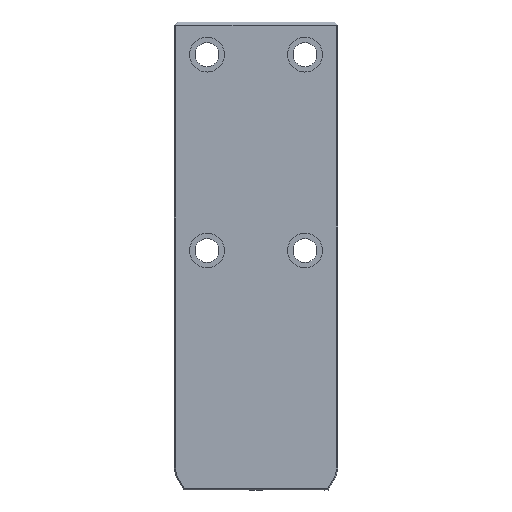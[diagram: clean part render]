
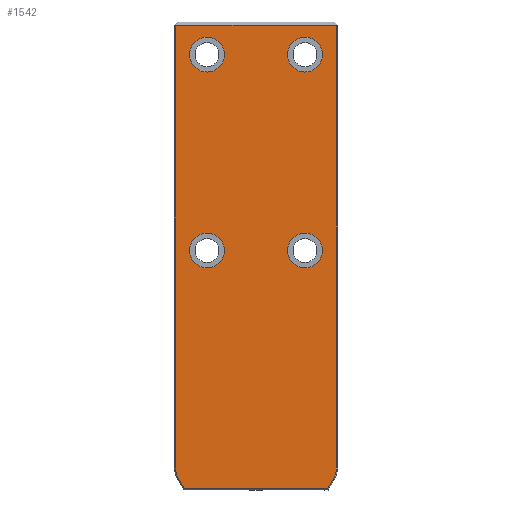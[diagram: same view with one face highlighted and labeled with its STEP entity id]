
A CAD part, front view. The second image highlights one B-rep face of the part: STEP entity #1542.
In plain terms, the highlighted planar face has unit normal (0, -1, 0).
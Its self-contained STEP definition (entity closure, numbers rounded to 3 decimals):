
#109=VERTEX_POINT(' ',#110);
#110=CARTESIAN_POINT('',(45.,-50.,-226.));
#111=VERTEX_POINT(' ',#112);
#112=CARTESIAN_POINT('',(45.,-50.,-194.));
#117=VERTEX_POINT(' ',#118);
#118=CARTESIAN_POINT('',(-45.,-50.,-46.));
#119=VERTEX_POINT(' ',#120);
#120=CARTESIAN_POINT('',(-45.,-50.,-14.));
#137=VERTEX_POINT(' ',#138);
#138=CARTESIAN_POINT('',(-45.,-50.,-226.));
#139=VERTEX_POINT(' ',#140);
#140=CARTESIAN_POINT('',(-45.,-50.,-194.));
#145=VERTEX_POINT(' ',#146);
#146=CARTESIAN_POINT('',(45.,-50.,-46.));
#147=VERTEX_POINT(' ',#148);
#148=CARTESIAN_POINT('',(45.,-50.,-14.));
#153=VERTEX_POINT(' ',#154);
#154=CARTESIAN_POINT('',(65.762,-50.,-429.));
#159=VERTEX_POINT(' ',#160);
#160=CARTESIAN_POINT('',(71.454,-50.,-419.141));
#163=VERTEX_POINT(' ',#164);
#164=CARTESIAN_POINT('',(74.,-50.,-409.641));
#167=VERTEX_POINT(' ',#168);
#168=CARTESIAN_POINT('',(74.,-50.,-240.));
#171=VERTEX_POINT(' ',#172);
#172=CARTESIAN_POINT('',(74.,-50.,-3.));
#177=VERTEX_POINT(' ',#178);
#178=CARTESIAN_POINT('',(-73.775,-50.,-3.));
#181=VERTEX_POINT(' ',#182);
#182=CARTESIAN_POINT('',(-74.,-50.,-3.112));
#187=VERTEX_POINT(' ',#188);
#188=CARTESIAN_POINT('',(-65.762,-50.,-429.));
#191=VERTEX_POINT(' ',#192);
#192=CARTESIAN_POINT('',(-74.,-50.,-240.));
#193=VERTEX_POINT(' ',#194);
#194=CARTESIAN_POINT('',(-74.,-50.,-409.641));
#195=VERTEX_POINT(' ',#196);
#196=CARTESIAN_POINT('',(-71.454,-50.,-419.141));
#363=CIRCLE('',#364,16.);
#364=AXIS2_PLACEMENT_3D('',#365,#366,#367);
#365=CARTESIAN_POINT('',(45.,-50.,-210.));
#366=DIRECTION('',(0.,1.,0.));
#367=DIRECTION('',(-1.,0.,0.));
#368=EDGE_CURVE(' ',#109,#111,#363,.F.);
#379=CIRCLE('',#380,16.);
#380=AXIS2_PLACEMENT_3D('',#381,#382,#383);
#381=CARTESIAN_POINT('',(45.,-50.,-210.));
#382=DIRECTION('',(0.,1.,0.));
#383=DIRECTION('',(1.,0.,0.));
#384=EDGE_CURVE(' ',#111,#109,#379,.F.);
#397=CIRCLE('',#398,16.);
#398=AXIS2_PLACEMENT_3D('',#399,#400,#401);
#399=CARTESIAN_POINT('',(-45.,-50.,-30.));
#400=DIRECTION('',(0.,1.,0.));
#401=DIRECTION('',(-1.,0.,0.));
#402=EDGE_CURVE(' ',#117,#119,#397,.F.);
#413=CIRCLE('',#414,16.);
#414=AXIS2_PLACEMENT_3D('',#415,#416,#417);
#415=CARTESIAN_POINT('',(-45.,-50.,-30.));
#416=DIRECTION('',(0.,1.,0.));
#417=DIRECTION('',(1.,0.,0.));
#418=EDGE_CURVE(' ',#119,#117,#413,.F.);
#487=CIRCLE('',#488,16.);
#488=AXIS2_PLACEMENT_3D('',#489,#490,#491);
#489=CARTESIAN_POINT('',(-45.,-50.,-210.));
#490=DIRECTION('',(0.,1.,0.));
#491=DIRECTION('',(-1.,0.,0.));
#492=EDGE_CURVE(' ',#137,#139,#487,.F.);
#509=CIRCLE('',#510,16.);
#510=AXIS2_PLACEMENT_3D('',#511,#512,#513);
#511=CARTESIAN_POINT('',(-45.,-50.,-210.));
#512=DIRECTION('',(0.,1.,0.));
#513=DIRECTION('',(1.,0.,0.));
#514=EDGE_CURVE(' ',#139,#137,#509,.F.);
#521=CIRCLE('',#522,16.);
#522=AXIS2_PLACEMENT_3D('',#523,#524,#525);
#523=CARTESIAN_POINT('',(45.,-50.,-30.));
#524=DIRECTION('',(0.,1.,0.));
#525=DIRECTION('',(-1.,0.,0.));
#526=EDGE_CURVE(' ',#145,#147,#521,.F.);
#543=CIRCLE('',#544,16.);
#544=AXIS2_PLACEMENT_3D('',#545,#546,#547);
#545=CARTESIAN_POINT('',(45.,-50.,-30.));
#546=DIRECTION('',(0.,1.,0.));
#547=DIRECTION('',(1.,0.,0.));
#548=EDGE_CURVE(' ',#147,#145,#543,.F.);
#570=LINE('',#571,#572);
#571=CARTESIAN_POINT('',(71.454,-50.,-419.141));
#572=VECTOR('',#573,1.);
#573=DIRECTION('',(-0.5,0.,-0.866));
#574=EDGE_CURVE(' ',#159,#153,#570,.T.);
#586=CIRCLE('',#587,19.);
#587=AXIS2_PLACEMENT_3D('',#588,#589,#590);
#588=CARTESIAN_POINT('',(55.,-50.,-409.641));
#589=DIRECTION('',(0.,1.,0.));
#590=DIRECTION('',(-0.966,0.,0.259));
#591=EDGE_CURVE(' ',#163,#159,#586,.T.);
#597=LINE('',#598,#599);
#598=CARTESIAN_POINT('',(74.,-50.,-240.));
#599=VECTOR('',#600,1.);
#600=DIRECTION('',(0.,0.,-1.));
#601=EDGE_CURVE(' ',#167,#163,#597,.T.);
#612=LINE('',#613,#614);
#613=CARTESIAN_POINT('',(74.,-50.,2.657));
#614=VECTOR('',#615,1.);
#615=DIRECTION('',(0.,0.,-1.));
#616=EDGE_CURVE(' ',#171,#167,#612,.T.);
#637=LINE('',#638,#639);
#638=CARTESIAN_POINT('',(-91.971,-50.,-3.));
#639=VECTOR('',#640,1.);
#640=DIRECTION('',(1.,0.,0.));
#641=EDGE_CURVE(' ',#177,#171,#637,.T.);
#652=LINE('',#653,#654);
#653=CARTESIAN_POINT('',(-13.555,-50.,27.11));
#654=VECTOR('',#655,1.);
#655=DIRECTION('',(-0.894,0.,-0.447));
#656=EDGE_CURVE(' ',#181,#177,#652,.F.);
#682=LINE('',#683,#684);
#683=CARTESIAN_POINT('',(-75.12,-50.,-429.));
#684=VECTOR('',#685,1.);
#685=DIRECTION('',(1.,0.,0.));
#686=EDGE_CURVE(' ',#187,#153,#682,.T.);
#687=LINE('',#688,#689);
#688=CARTESIAN_POINT('',(-74.,-50.,-240.));
#689=VECTOR('',#690,1.);
#690=DIRECTION('',(0.,0.,1.));
#691=EDGE_CURVE(' ',#191,#181,#687,.T.);
#692=LINE('',#693,#694);
#693=CARTESIAN_POINT('',(-74.,-50.,-409.641));
#694=VECTOR('',#695,1.);
#695=DIRECTION('',(0.,0.,1.));
#696=EDGE_CURVE(' ',#193,#191,#692,.T.);
#697=CIRCLE('',#698,19.);
#698=AXIS2_PLACEMENT_3D('',#699,#700,#701);
#699=CARTESIAN_POINT('',(-55.,-50.,-409.641));
#700=DIRECTION('',(0.,1.,0.));
#701=DIRECTION('',(0.966,0.,0.259));
#702=EDGE_CURVE(' ',#195,#193,#697,.T.);
#703=LINE('',#704,#705);
#704=CARTESIAN_POINT('',(-62.934,-50.,-433.899));
#705=VECTOR('',#706,1.);
#706=DIRECTION('',(-0.5,0.,0.866));
#707=EDGE_CURVE(' ',#187,#195,#703,.T.);
#1508=ORIENTED_EDGE('',*,*,#691,.F.);
#1509=ORIENTED_EDGE('',*,*,#696,.F.);
#1510=ORIENTED_EDGE('',*,*,#702,.F.);
#1511=ORIENTED_EDGE('',*,*,#707,.F.);
#1512=ORIENTED_EDGE('',*,*,#686,.T.);
#1513=ORIENTED_EDGE('',*,*,#574,.F.);
#1514=ORIENTED_EDGE('',*,*,#591,.F.);
#1515=ORIENTED_EDGE('',*,*,#601,.F.);
#1516=ORIENTED_EDGE('',*,*,#616,.F.);
#1517=ORIENTED_EDGE('',*,*,#641,.F.);
#1518=ORIENTED_EDGE('',*,*,#656,.F.);
#1519=EDGE_LOOP('',(#1508,#1509,#1510,#1511,#1512,#1513,#1514,#1515,#1516,#1517,#1518));
#1520=FACE_OUTER_BOUND('',#1519,.T.);
#1521=ORIENTED_EDGE('',*,*,#548,.F.);
#1522=ORIENTED_EDGE('',*,*,#526,.F.);
#1523=EDGE_LOOP('',(#1521,#1522));
#1524=FACE_BOUND('',#1523,.T.);
#1525=ORIENTED_EDGE('',*,*,#514,.F.);
#1526=ORIENTED_EDGE('',*,*,#492,.F.);
#1527=EDGE_LOOP('',(#1525,#1526));
#1528=FACE_BOUND('',#1527,.T.);
#1529=ORIENTED_EDGE('',*,*,#418,.F.);
#1530=ORIENTED_EDGE('',*,*,#402,.F.);
#1531=EDGE_LOOP('',(#1529,#1530));
#1532=FACE_BOUND('',#1531,.T.);
#1533=ORIENTED_EDGE('',*,*,#384,.F.);
#1534=ORIENTED_EDGE('',*,*,#368,.F.);
#1535=EDGE_LOOP('',(#1533,#1534));
#1536=FACE_BOUND('',#1535,.T.);
#1537=PLANE('',#1538);
#1538=AXIS2_PLACEMENT_3D('',#1539,#1540,#1541);
#1539=CARTESIAN_POINT('',(0.,-50.,0.));
#1540=DIRECTION('',(0.,-1.,0.));
#1541=DIRECTION('',(0.,0.,-1.));
#1542=ADVANCED_FACE('',(#1520,#1524,#1528,#1532,#1536),#1537,.T.);
